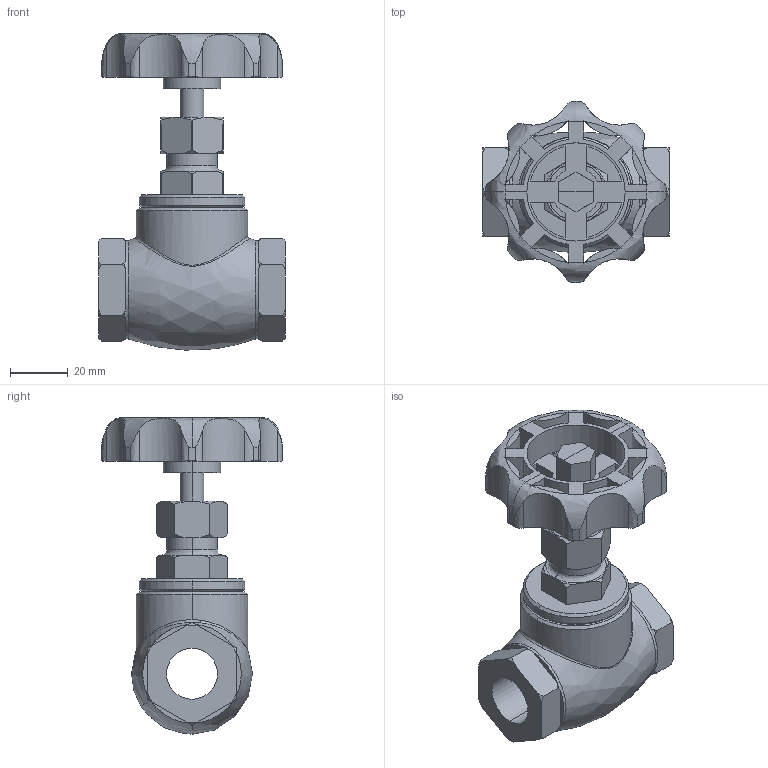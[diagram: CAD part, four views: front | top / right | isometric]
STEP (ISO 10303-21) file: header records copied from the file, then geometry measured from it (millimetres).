
FILE_DESCRIPTION( (''), '2;1');
FILE_NAME ('PC1027.9568.3D GLV-10 15A_14970.stp','2025-07-28T11:27:51',(''),(''),'spGate 19.8.4 (****-****-****-****)','','');
FILE_SCHEMA (('AUTOMOTIVE_DESIGN'));
Length unit declared in the file: millimetre
Bounding box: 65 x 63 x 110.02 mm (x, y, z)
Volume: 106660.8 mm3; surface area: 30597.7 mm2
Topology: 1 solids, 1 shells, 238 faces, 692 edges, 451 vertices
Faces by surface type: bspline 98, plane 80, cylinder 60
Entity records: 16004 total; most frequent: CARTESIAN_POINT 5314, ORIENTED_EDGE 1380, COLOUR_RGB 929, PRESENTATION_STYLE_ASSIGNMENT 929, STYLED_ITEM 929, DIRECTION 912, EDGE_CURVE 690, DRAUGHTING_PRE_DEFINED_CURVE_FONT 690
